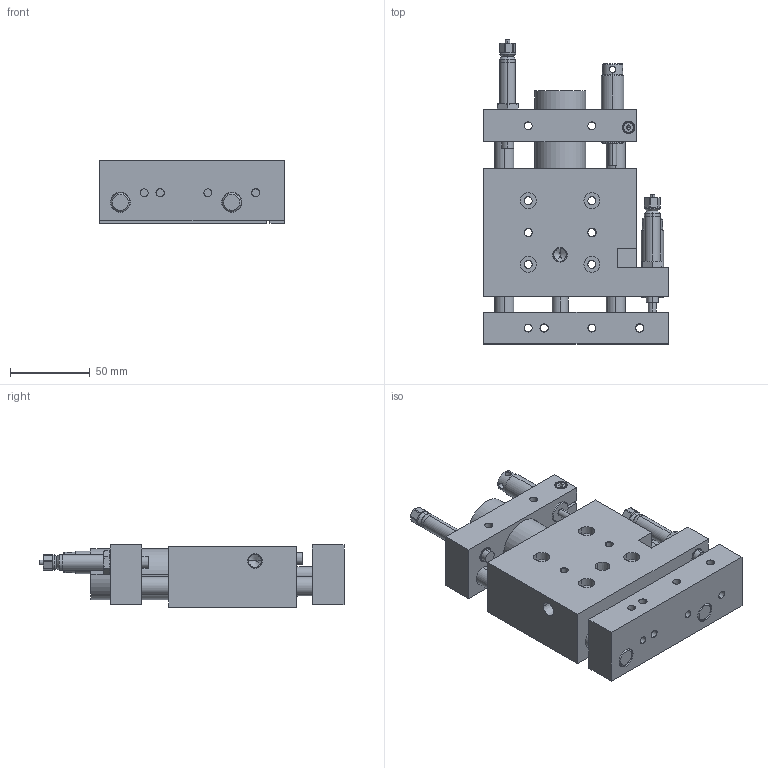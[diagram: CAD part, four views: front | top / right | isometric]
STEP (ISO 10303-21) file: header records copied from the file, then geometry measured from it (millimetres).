
FILE_DESCRIPTION (( 'STEP AP214' ), '1' );
FILE_NAME ('meto-fer_ml26-025.STEP', '2004-12-31T14:20:05', ( ' ' ), ( ' ' ), 'SwSTEP 2.0', 'SolidWorks 2003240', '' );
FILE_SCHEMA (( 'AUTOMOTIVE_DESIGN' ));
Length unit declared in the file: millimetre
Products named in the file (9): Socket Head Cap Screw_DIN_DIN 912 M4 x 12 --- 12N; meto-fer_kb-08; meto-fer_ml26-025; meto-fer_ml26-025_tf; meto-fer_ml26-025_sd; meto-fer_ml26_pp; meto-fer_ml26-025_shaft; meto-fer_mu-01-004; meto-fer_as-10-50
Assembly tree (13 placements, depth 2):
  meto-fer_ml26-025
    meto-fer_as-10-50  x2
    meto-fer_mu-01-004  x2
    meto-fer_kb-08  x2
    meto-fer_ml26-025_sd
    meto-fer_ml26_pp
    meto-fer_ml26-025_tf
    meto-fer_ml26-025_shaft  x2
    Socket Head Cap Screw_DIN_DIN 912 M4 x 12 --- 12N  x2
Bounding box: 116 x 191 x 39 mm (x, y, z)
Volume: 495795.7 mm3; surface area: 107273.7 mm2
Topology: 13 solids, 13 shells, 462 faces, 1087 edges, 652 vertices
Faces by surface type: cylinder 176, cone 142, plane 136, torus 8
Entity records: 11296 total; most frequent: CARTESIAN_POINT 2155, DIRECTION 1805, ORIENTED_EDGE 1610, EDGE_CURVE 805, AXIS2_PLACEMENT_3D 719, VERTEX_POINT 493, EDGE_LOOP 428, VECTOR 367
